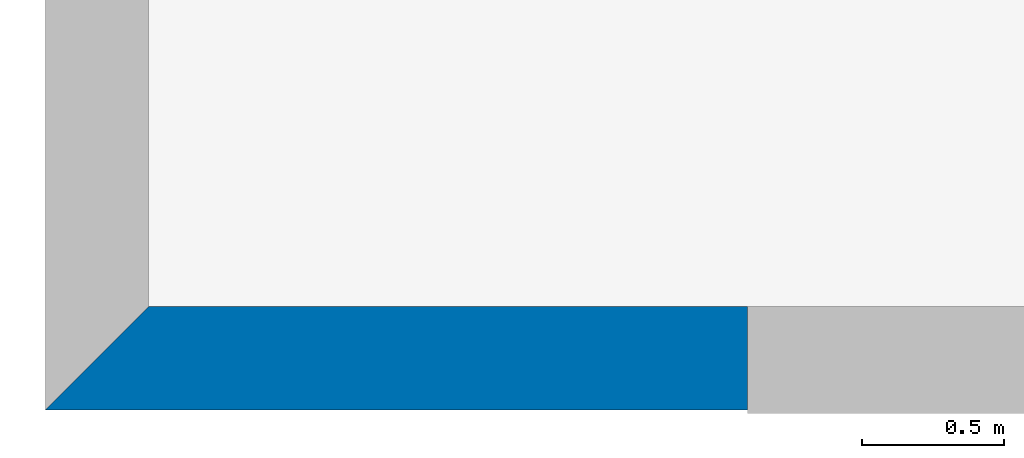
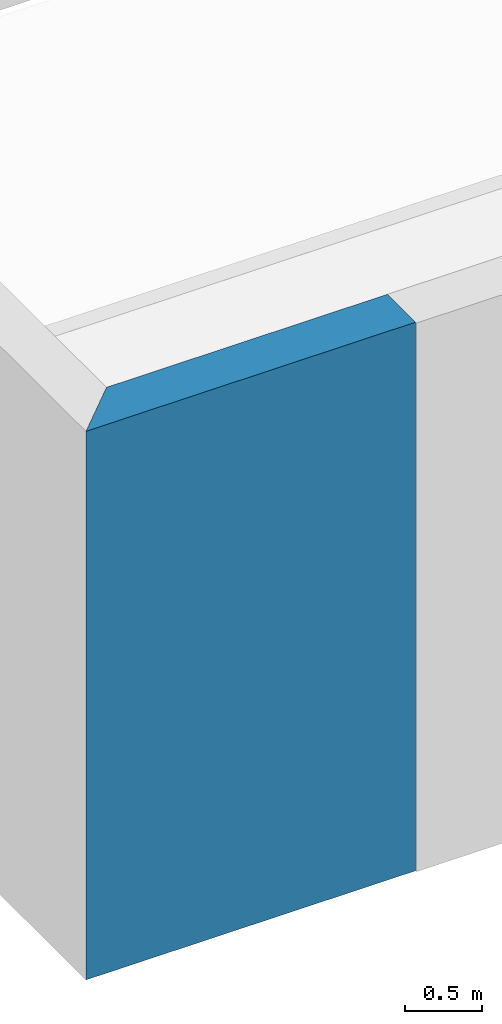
# One storey, part 2 of 3: 1 wall.
"""IFC2X3 building model written with IfcOpenShell, lengths in millimetres."""

from ifc_helpers import new_model, entity, si_unit, converted_unit, derived_unit, direction, frame, origin, origin_with_axes, place, context, subcontext, project, spatial, faceted_brep, material, layer, layer_set, type_object, element, save


model = new_model("IFC2X3")

# Units and contexts
model_context = context("Model", 3, precision=0.01, world=origin(), true_north=direction((6.12303176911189e-17, 1.0)))
plan_context = context("Plan", 3, precision=1e-05, world=origin_with_axes())
body_context = subcontext(model_context, "Body", "Model", "MODEL_VIEW")
ifc_project = project(units=[converted_unit("PLANEANGLEUNIT", "DEGREE", entity("IfcPositiveLengthMeasure", 0.0174532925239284), si_unit("PLANEANGLEUNIT", "RADIAN"), dimensions=[0, 0, 0, 0, 0, 0, 0]), si_unit("AREAUNIT", "SQUARE_METRE"), si_unit("LENGTHUNIT", "METRE", prefix="MILLI"), si_unit("MASSUNIT", "GRAM", prefix="KILO"), si_unit("POWERUNIT", "WATT"), si_unit("PRESSUREUNIT", "PASCAL"), si_unit("FORCEUNIT", "NEWTON", prefix="KILO"), si_unit("ELECTRICVOLTAGEUNIT", "VOLT"), si_unit("ELECTRICCURRENTUNIT", "AMPERE"), si_unit("THERMODYNAMICTEMPERATUREUNIT", "DEGREE_CELSIUS"), si_unit("TIMEUNIT", "SECOND"), si_unit("VOLUMEUNIT", "CUBIC_METRE"), derived_unit("LINEARVELOCITYUNIT", [(si_unit("LENGTHUNIT", "METRE"), 1), (si_unit("TIMEUNIT", "SECOND"), -1)]), derived_unit("VOLUMETRICFLOWRATEUNIT", [(si_unit("VOLUMEUNIT", "CUBIC_METRE"), 1), (si_unit("TIMEUNIT", "SECOND"), -1)]), derived_unit("THERMALTRANSMITTANCEUNIT", [(si_unit("POWERUNIT", "WATT"), 1), (si_unit("THERMODYNAMICTEMPERATUREUNIT", "KELVIN"), -1), (si_unit("AREAUNIT", "SQUARE_METRE"), -1)]), derived_unit("SOUNDPRESSUREUNIT", [(si_unit("PRESSUREUNIT", "PASCAL"), 1)])], contexts=[model_context, plan_context])

# Site, building, storey
site_placement = place(None, frame((2314154.5009392, 1029894.10887124, 0.0), z_axis=(0.0, 0.0, 1.0), x_axis=(1.0, 0.0, 0.0)))
site = spatial("IfcSite", under=ifc_project, at=site_placement, Name="Default", CompositionType="ELEMENT")
building_placement = place(site_placement, origin_with_axes())
building = spatial("IfcBuilding", under=site, at=building_placement, CompositionType="ELEMENT")
storey_placement = place(building_placement, frame((0.0, 0.0, 15370.0), z_axis=(0.0, 0.0, 1.0), x_axis=(1.0, 0.0, 0.0)))
storey = spatial("IfcBuildingStorey", under=building, at=storey_placement, Name="XX - C +15,37 TA E2", CompositionType="ELEMENT", Elevation=15370.0)

# Wall
ifc_material_1 = material(Name="Fasadeplate")
ifc_layer_1 = layer(ifc_material_1, 8.0)
ifc_material_2 = material(Name="Existing - Bridget key")
ifc_layer_2 = layer(ifc_material_2, 358.0)
ifc_layer_set = layer_set([ifc_layer_1, ifc_layer_2], Name="Basic Wall:V_Existing 300mm facade plate")
wall_type = type_object("IfcWallType", Name="Basic Wall:V_Existing 300mm facade plate", PredefinedType="STANDARD", material=ifc_layer_set)
wall_placement = place(storey_placement, frame((920.333947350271, -13607.3032800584, -1735.0), z_axis=(0.0, 0.0, 1.0), x_axis=(-1.0, 0.0, 0.0)))
element("IfcWall", 1, at=wall_placement, inside=storey, type_object=wall_type, Name="Basic Wall:V_Existing 300mm facade plate", ObjectType="Basic Wall:V_Existing 300mm facade plate", context=body_context, shape_type="Brep", body=[
    faceted_brep([(2111.49903815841, -183.0, 735.0), (0.0, -183.0, 735.0), (0.0, -183.0, 1373.0), (2111.49903815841, -183.0, 1373.0), (0.0, 183.0, 735.0), (2477.44810683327, 183.0, 735.0), (2477.44810683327, 183.0, 5095.0), (0.0, 183.0, 5095.0), (2111.49903815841, -183.0, 5095.0), (0.0, -183.0, 5095.0), (0.0, -183.0, 4843.77302123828), (0.0, 67.023492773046, 4852.50403399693), (0.0, 67.023492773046, 4522.30288437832), (0.0, -183.0, 4513.57187161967), (0.0, -183.0, 1735.0), (0.0, 163.0, 1735.0), (0.0, 163.0, 1373.0), (2300.0, 5.52719665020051, 1373.0), (2300.0, 163.0, 1373.0), (2111.49903815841, -183.0, 1735.0), (2300.0, 5.52719665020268, 1735.0), (2300.0, 163.0, 1735.0), (2111.4990381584, -183.0, 4513.57187161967), (2300.0, 5.52719665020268, 4520.15538639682), (2300.0, 5.52719665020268, 4850.35653601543), (2111.49903815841, -183.0, 4843.77302123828), (2300.0, 67.0234927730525, 4522.30288437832), (2300.0, 67.0234927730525, 4852.50403399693)], [[[0, 1, 2, 3]], [[4, 5, 6, 7]], [[7, 6, 8, 9]], [[1, 4, 7, 9, 10, 11, 12, 13, 14, 15, 16, 2]], [[17, 3, 2, 16, 18]], [[14, 19, 20, 21, 15]], [[16, 15, 21, 18]], [[20, 17, 18, 21]], [[5, 0, 3, 17, 20, 19, 22, 23, 24, 25, 8, 6]], [[23, 22, 13, 12, 26]], [[10, 25, 24, 27, 11]], [[24, 23, 26, 27]], [[12, 11, 27, 26]], [[13, 22, 19, 14]], [[25, 10, 9, 8]], [[5, 4, 1, 0]]], orient=[[False], [False], [False], [False], [False], [False], [False], [False], [False], [False], [False], [False], [False], [False], [False], [False]]),
])

save(model, "model.ifc")
